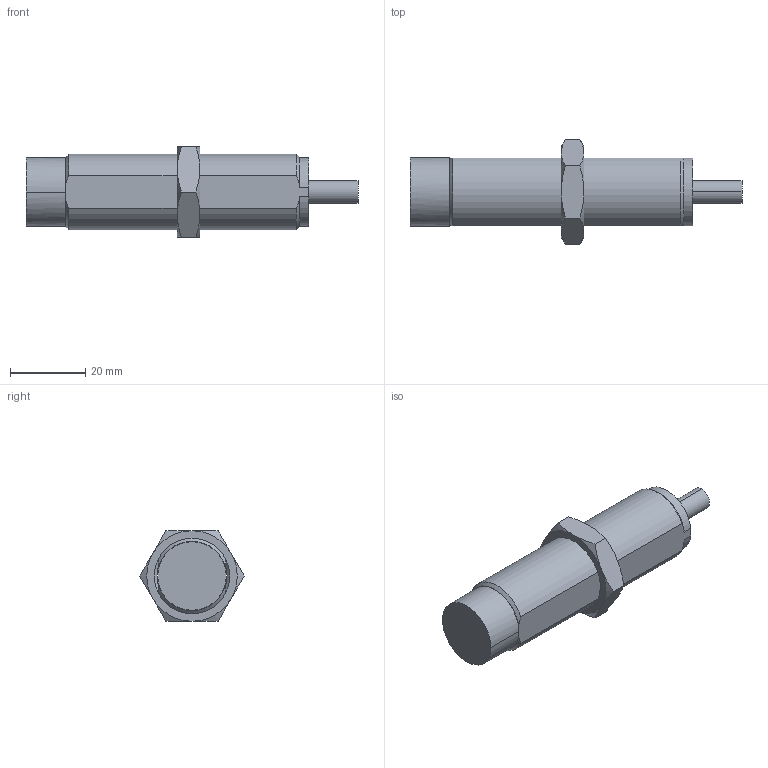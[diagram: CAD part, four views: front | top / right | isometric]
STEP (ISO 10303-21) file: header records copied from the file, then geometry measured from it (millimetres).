
FILE_DESCRIPTION((''),'2;1');
FILE_NAME('R412010309_ASM','2016-01-22T',('PUG1HC'),(''),'PRO/ENGINEER BY PARAMETRIC TECHNOLOGY CORPORATION, 2012421','PRO/ENGINEER BY PARAMETRIC TECHNOLOGY CORPORATION, 2012421','');
FILE_SCHEMA(('CONFIG_CONTROL_DESIGN','SHAPE_APPEARANCE_LAYERS_GROUPS'));
Length unit declared in the file: millimetre
Products named in the file (4): R412010309-A; R412010364; R412010309-D; R412010309_ASM
Assembly tree (3 placements, depth 2):
  R412010309_ASM
    R412010309-A
    R412010364
    R412010309-D
Bounding box: 88 x 27.71 x 24 mm (x, y, z)
Volume: 23775.8 mm3; surface area: 6670.3 mm2
Topology: 3 solids, 3 shells, 50 faces, 112 edges, 68 vertices
Faces by surface type: plane 20, cone 20, cylinder 10
Entity records: 1757 total; most frequent: CARTESIAN_POINT 553, DIRECTION 238, ORIENTED_EDGE 224, EDGE_CURVE 112, AXIS2_PLACEMENT_3D 101, VERTEX_POINT 68, EDGE_LOOP 52, FACE_OUTER_BOUND 50
